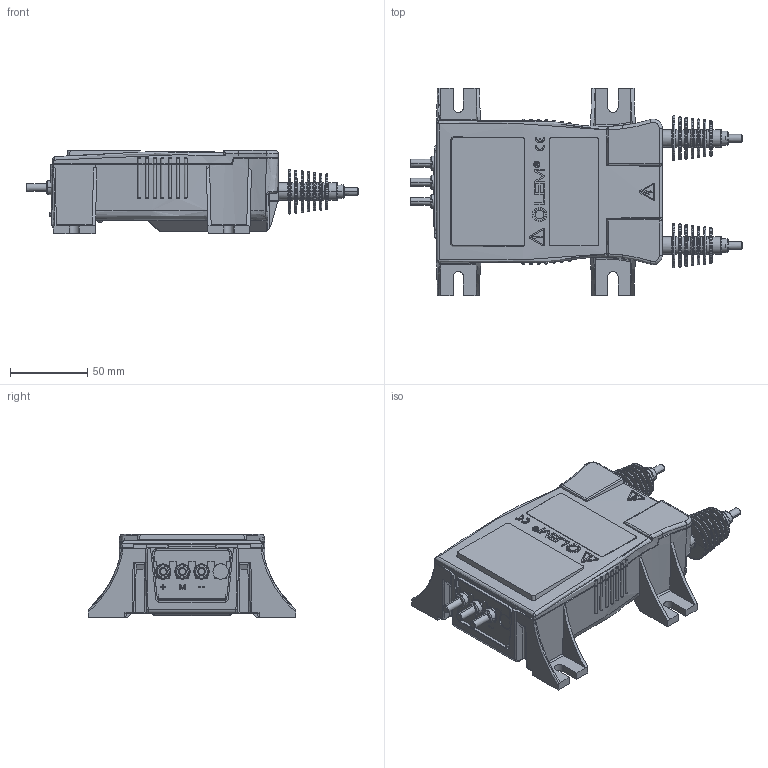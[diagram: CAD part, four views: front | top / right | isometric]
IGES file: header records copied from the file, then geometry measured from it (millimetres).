
Start section: Elysium IGES Interface
Global section: file name: U:\BLACKBOX DIVERSES\BLACKBOX_DV4000_SP3.igs; native system: PTC Creo Elements/Direct Modeling 19.0B  21-Mar-2015; preprocessor: Creo Element/Direct IGES_3D V2.2; author: Unknown; organization: Unknown; date: 20150904.103404; units: millimetre
Bounding box: 214.7 x 134 x 53.71 mm (x, y, z)
Volume: 370388.3 mm3; surface area: 129845.2 mm2
Topology: 1 solids, 3 shells, 3544 faces, 9786 edges, 6389 vertices
Faces by surface type: bspline 3544
